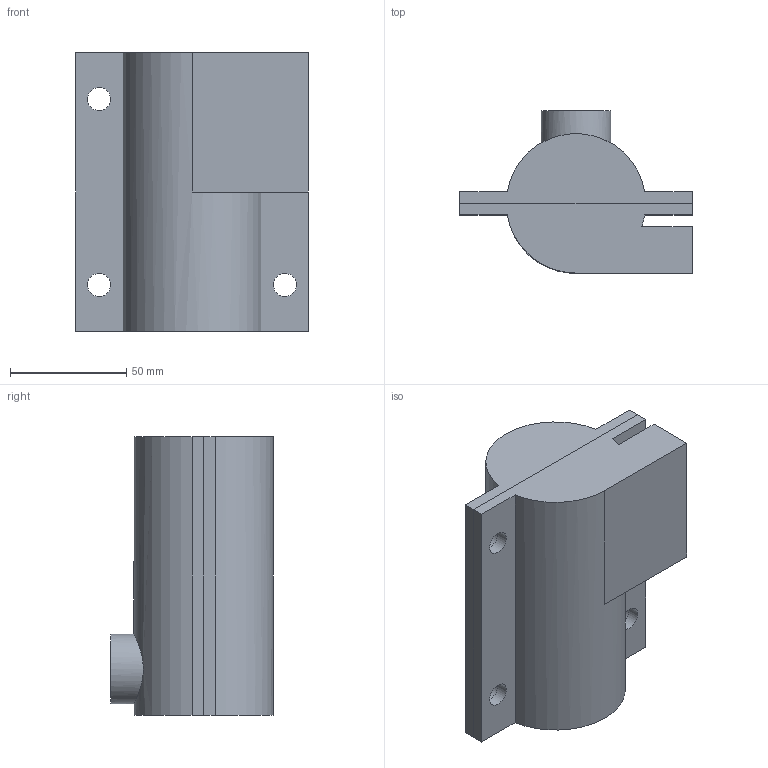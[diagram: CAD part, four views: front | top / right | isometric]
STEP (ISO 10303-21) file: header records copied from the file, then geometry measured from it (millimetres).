
FILE_DESCRIPTION(/* description */ (''),/* implementation_level */ '2;1');
FILE_NAME(/* name */ 'E:\OneDrive\School\Courses\Graphic Communication\Higher\Projects\Technical Graphics\Higher GC Technical Graphics\AS STEP\Section_8.stp',/* time_stamp */ '2020-12-07T16:37:04+00:00',/* author */ ('hunte'),/* organization */ (''),/* preprocessor_version */ 'ST-DEVELOPER v18.1',/* originating_system */ 'Autodesk Inventor 2020',/* authorisation */ '');
FILE_SCHEMA (('AUTOMOTIVE_DESIGN { 1 0 10303 214 3 1 1 }'));
Length unit declared in the file: millimetre
Products named in the file (3): ASSY_Section_8; PRT_Top_Case_v1; PRT_Bottom_Case_v1
Assembly tree (2 placements, depth 2):
  ASSY_Section_8
    PRT_Top_Case_v1
    PRT_Bottom_Case_v1
Bounding box: 100 x 70 x 120 mm (x, y, z)
Volume: 188620.1 mm3; surface area: 82075.8 mm2
Topology: 2 solids, 2 shells, 40 faces, 115 edges, 81 vertices
Faces by surface type: plane 26, cylinder 14
Full cylindrical faces by diameter (mm): 10 x8, 20 x1, 30 x1
Entity records: 1563 total; most frequent: CARTESIAN_POINT 326, DIRECTION 240, ORIENTED_EDGE 230, EDGE_CURVE 115, AXIS2_PLACEMENT_3D 85, VERTEX_POINT 81, LINE 70, VECTOR 70
